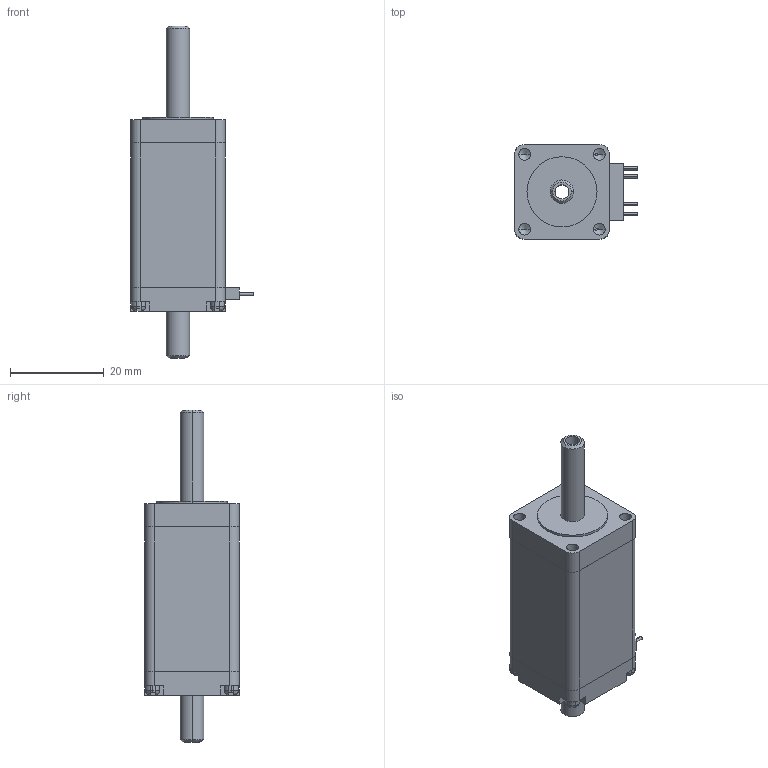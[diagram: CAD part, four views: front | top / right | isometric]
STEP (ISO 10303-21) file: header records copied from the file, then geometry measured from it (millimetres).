
FILE_DESCRIPTION (( 'STEP AP203' ), '1' );
FILE_NAME ('STCK-20D08-1441.STEP', '2019-09-23T01:46:33', ( '' ), ( '' ), 'SwSTEP 2.0', 'SolidWorks 2012', '' );
FILE_SCHEMA (( 'CONFIG_CONTROL_DESIGN' ));
Length unit declared in the file: millimetre
Products named in the file (1): STCK-20D08-1441
Bounding box: 26.2 x 20.21 x 71 mm (x, y, z)
Volume: 16656.8 mm3; surface area: 5619.2 mm2
Topology: 5 solids, 5 shells, 190 faces, 484 edges, 310 vertices
Faces by surface type: plane 106, cylinder 64, cone 12, bspline 8
Entity records: 5979 total; most frequent: CARTESIAN_POINT 1295, DIRECTION 954, ORIENTED_EDGE 952, EDGE_CURVE 476, AXIS2_PLACEMENT_3D 327, VERTEX_POINT 310, VECTOR 300, LINE 300
